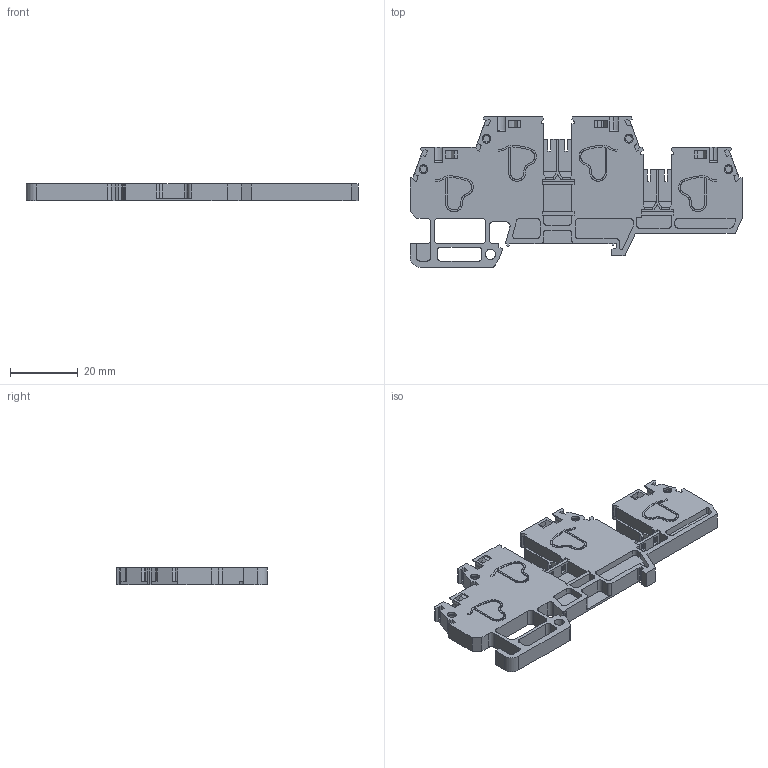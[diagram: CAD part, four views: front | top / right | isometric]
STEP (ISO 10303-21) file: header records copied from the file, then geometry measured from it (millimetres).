
FILE_DESCRIPTION (( 'STEP AP214' ), '1' );
FILE_NAME ('42440_EURO QD_2.5_35.STEP', '2021-03-26T09:57:27', ( '' ), ( '' ), 'SwSTEP 2.0', 'SolidWorks 2020', '' );
FILE_SCHEMA (( 'AUTOMOTIVE_DESIGN' ));
Length unit declared in the file: millimetre
Products named in the file (1): 42440_EURO QD_2.5_35
Bounding box: 98 x 44.4 x 5.2 mm (x, y, z)
Volume: 11135.3 mm3; surface area: 10224.6 mm2
Topology: 1 solids, 1 shells, 664 faces, 1884 edges, 1249 vertices
Faces by surface type: plane 464, cylinder 162, bspline 16, torus 14, cone 8
Entity records: 24021 total; most frequent: CARTESIAN_POINT 7372, ORIENTED_EDGE 3768, DIRECTION 2957, EDGE_CURVE 1884, VECTOR 1281, LINE 1281, VERTEX_POINT 1249, AXIS2_PLACEMENT_3D 838
